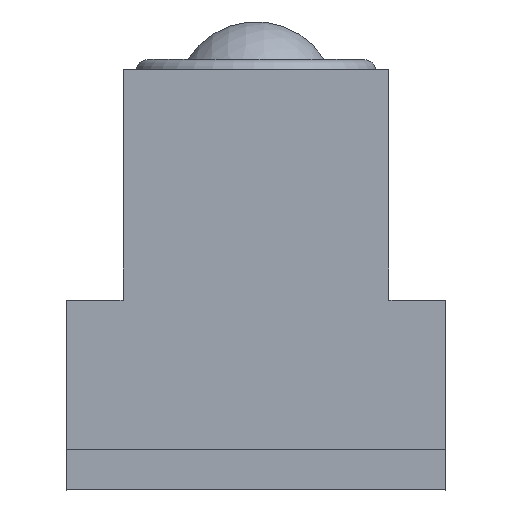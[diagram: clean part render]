
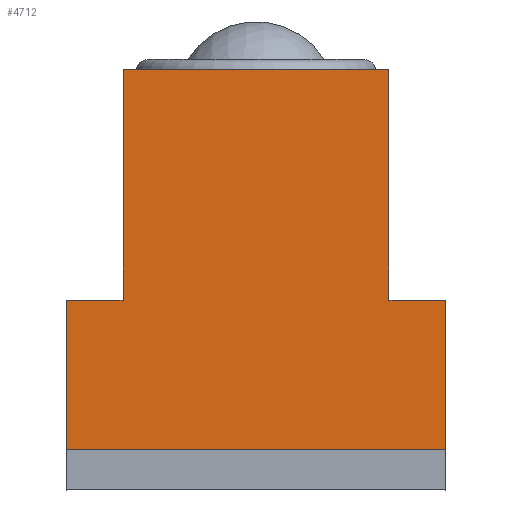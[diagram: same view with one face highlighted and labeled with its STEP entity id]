
A CAD part, left-side view. The second image highlights one B-rep face of the part: STEP entity #4712.
In plain terms, the highlighted planar face has unit normal (-1, 0, 0) as drawn and (0, 0, -1) by its records, which use the part's own axes.
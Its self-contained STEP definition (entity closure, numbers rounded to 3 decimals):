
#486=PLANE('',#5257);
#667=LINE('',#8149,#899);
#671=LINE('',#8156,#903);
#672=LINE('',#8160,#904);
#676=LINE('',#8167,#908);
#680=LINE('',#8174,#912);
#681=LINE('',#8177,#913);
#684=LINE('',#8183,#916);
#687=LINE('',#8188,#919);
#899=VECTOR('',#6540,18.2);
#903=VECTOR('',#6546,21.);
#904=VECTOR('',#6549,11.8);
#908=VECTOR('',#6555,4.5);
#912=VECTOR('',#6561,18.2);
#913=VECTOR('',#6564,4.5);
#916=VECTOR('',#6569,11.8);
#919=VECTOR('',#6574,30.);
#1552=FACE_OUTER_BOUND('',#2051,.T.);
#2051=EDGE_LOOP('',(#4242,#4243,#4244,#4245,#4246,#4247,#4248,#4249));
#2708=VERTEX_POINT('',#8146);
#2709=VERTEX_POINT('',#8148);
#2711=VERTEX_POINT('',#8154);
#2712=VERTEX_POINT('',#8158);
#2713=VERTEX_POINT('',#8159);
#2717=VERTEX_POINT('',#8172);
#2718=VERTEX_POINT('',#8176);
#2720=VERTEX_POINT('',#8182);
#3220=EDGE_CURVE('',#2708,#2709,#667,.T.);
#3224=EDGE_CURVE('',#2711,#2708,#671,.T.);
#3225=EDGE_CURVE('',#2712,#2713,#672,.T.);
#3229=EDGE_CURVE('',#2709,#2712,#676,.T.);
#3233=EDGE_CURVE('',#2717,#2711,#680,.T.);
#3234=EDGE_CURVE('',#2718,#2717,#681,.T.);
#3237=EDGE_CURVE('',#2720,#2718,#684,.T.);
#3240=EDGE_CURVE('',#2713,#2720,#687,.T.);
#4242=ORIENTED_EDGE('',*,*,#3240,.F.);
#4243=ORIENTED_EDGE('',*,*,#3225,.F.);
#4244=ORIENTED_EDGE('',*,*,#3229,.F.);
#4245=ORIENTED_EDGE('',*,*,#3220,.F.);
#4246=ORIENTED_EDGE('',*,*,#3224,.F.);
#4247=ORIENTED_EDGE('',*,*,#3233,.F.);
#4248=ORIENTED_EDGE('',*,*,#3234,.F.);
#4249=ORIENTED_EDGE('',*,*,#3237,.F.);
#4712=ADVANCED_FACE('',(#1552),#486,.F.);
#5257=AXIS2_PLACEMENT_3D('',#8191,#6578,#6579);
#6540=DIRECTION('',(0.,-1.,0.));
#6546=DIRECTION('',(-1.,0.,0.));
#6549=DIRECTION('',(0.,-1.,0.));
#6555=DIRECTION('',(-1.,0.,0.));
#6561=DIRECTION('',(0.,1.,0.));
#6564=DIRECTION('',(-1.,0.,0.));
#6569=DIRECTION('',(0.,1.,0.));
#6574=DIRECTION('',(1.,0.,0.));
#6578=DIRECTION('center_axis',(0.,0.,1.));
#6579=DIRECTION('ref_axis',(1.,0.,0.));
#8146=CARTESIAN_POINT('',(-10.5,30.,0.));
#8148=CARTESIAN_POINT('',(-10.5,11.8,0.));
#8149=CARTESIAN_POINT('',(-10.5,30.,0.));
#8154=CARTESIAN_POINT('',(10.5,30.,0.));
#8156=CARTESIAN_POINT('',(10.5,30.,0.));
#8158=CARTESIAN_POINT('',(-15.,11.8,0.));
#8159=CARTESIAN_POINT('',(-15.,0.,0.));
#8160=CARTESIAN_POINT('',(-15.,11.8,0.));
#8167=CARTESIAN_POINT('',(-10.5,11.8,0.));
#8172=CARTESIAN_POINT('',(10.5,11.8,0.));
#8174=CARTESIAN_POINT('',(10.5,11.8,0.));
#8176=CARTESIAN_POINT('',(15.,11.8,0.));
#8177=CARTESIAN_POINT('',(15.,11.8,0.));
#8182=CARTESIAN_POINT('',(15.,0.,0.));
#8183=CARTESIAN_POINT('',(15.,0.,0.));
#8188=CARTESIAN_POINT('',(-15.,0.,0.));
#8191=CARTESIAN_POINT('Origin',(0.,13.635,0.));
